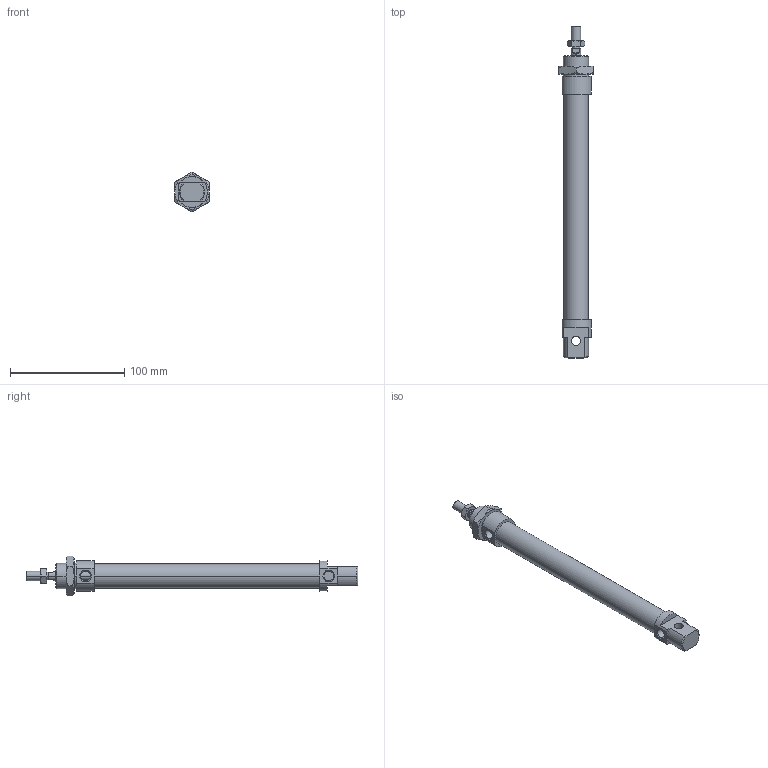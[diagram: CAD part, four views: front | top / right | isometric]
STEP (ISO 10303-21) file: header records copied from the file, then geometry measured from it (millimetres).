
FILE_DESCRIPTION((''),'2;1');
FILE_NAME('I:\DOC-EDP\Lib-3d\1200\CILINDRI\1280\1280_20_0160.stp','2003-04-07T16:10:26',('maffial1'),(''),'Autodesk Inventor (R) 6.0','Autodesk Inventor (R) 6.0','');
FILE_SCHEMA(('AUTOMOTIVE_DESIGN { 1 0 10303 214 1 1 1 1 }'));
Length unit declared in the file: millimetre
Products named in the file (5): 1280_20_0160; S1280_20_160; 1200_20_05; 1200_20_06; C1280_20_160
Assembly tree (4 placements, depth 2):
  1280_20_0160
    S1280_20_160
    1200_20_05
    1200_20_06
    C1280_20_160
Bounding box: 30 x 290 x 34.64 mm (x, y, z)
Volume: 100835 mm3; surface area: 33230.2 mm2
Topology: 4 solids, 4 shells, 124 faces, 281 edges, 170 vertices
Faces by surface type: plane 41, cone 40, cylinder 22, bspline 21
Entity records: 3816 total; most frequent: CARTESIAN_POINT 1039, DIRECTION 573, ORIENTED_EDGE 562, EDGE_CURVE 281, AXIS2_PLACEMENT_3D 236, VERTEX_POINT 170, EDGE_LOOP 137, FACE_OUTER_BOUND 124
